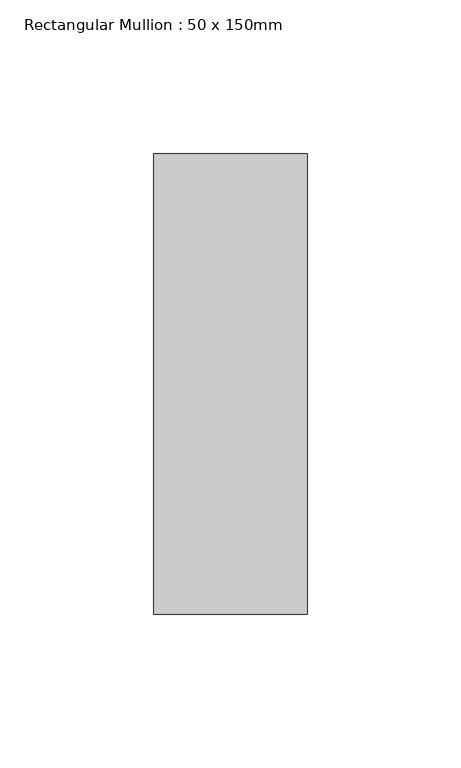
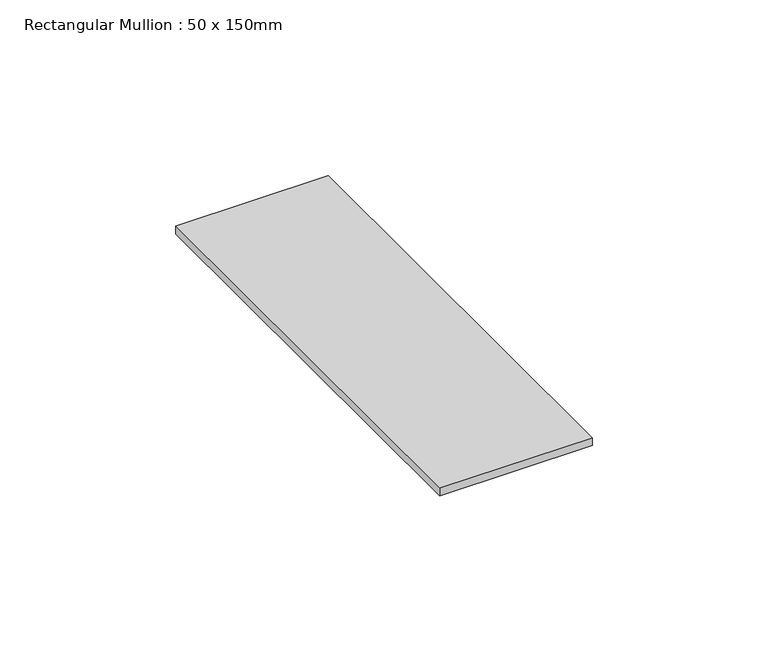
"""IFC4 building model written with IfcOpenShell, lengths in millimetres: member geometry, Rectangular Mullion : 50 x 150mm."""

from ifc_helpers import new_model, si_unit, frame, origin, place, context, project, spatial, polyline, outline, extrude, source, transform, mapped, element, save


def rectangular_mullion_50_x_150mm_e050193c(model_context):
    return source(origin(), model_context, "Body", "SweptSolid", [
        extrude(outline(polyline([(25.0, 75.0), (25.0, -75.0), (-25.0, -75.0), (-25.0, 75.0), (25.0, 75.0)])), frame((0.0, 0.0, -2.7080134), z_axis=(0.0, 0.0, 1.0), x_axis=(1.0, 0.0, 0.0)), (0.0, 0.0, 1.0), 2.7080134),
    ])


if __name__ == "__main__":
    model = new_model("IFC4")
    model_context = context("Model", 3, world=origin())
    ifc_project = project(units=[si_unit("LENGTHUNIT", "METRE", prefix="MILLI")], contexts=[model_context])
    site = spatial("IfcSite", under=ifc_project)
    building = spatial("IfcBuilding", under=site)
    placement = place(None, origin())
    rectangular_mullion_50_x_150mm_shape = rectangular_mullion_50_x_150mm_e050193c(model_context)
    element("IfcMember", 1, ObjectType="Rectangular Mullion : 50 x 150mm", at=placement, inside=building, context=model_context, shape_type="MappedRepresentation", body=[
        mapped(rectangular_mullion_50_x_150mm_shape, transform((0.0, 0.0, 0.0), x_axis=(1.0, 0.0, 0.0), y_axis=(0.0, 1.0, 0.0), z_axis=(0.0, 0.0, 1.0))),
    ])
    save(model, "model.ifc")
